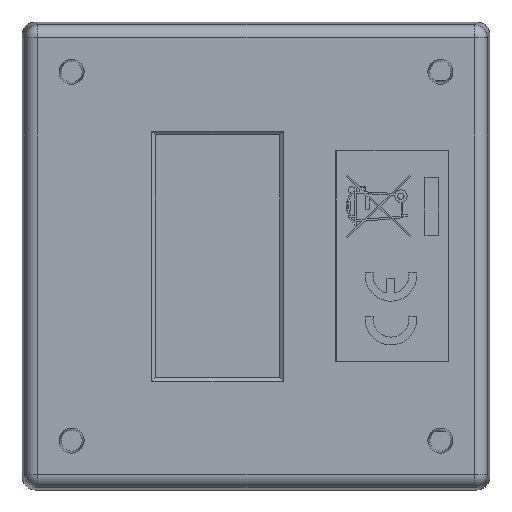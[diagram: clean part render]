
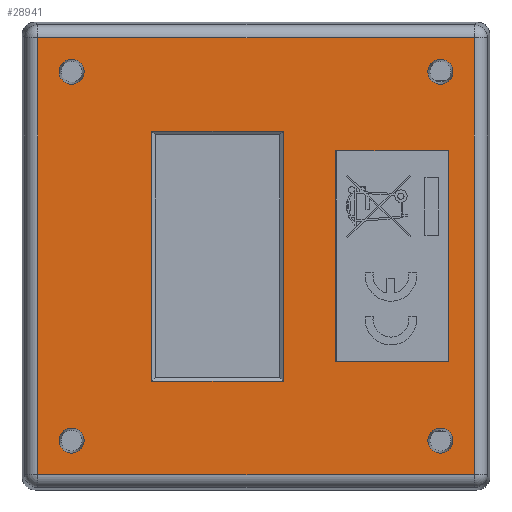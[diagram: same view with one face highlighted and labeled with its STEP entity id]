
A CAD part, front view. The second image highlights one B-rep face of the part: STEP entity #28941.
In plain terms, the highlighted planar face has unit normal (0, -1, 0) as drawn and (0, 0, -1) by its records, which use the part's own axes.
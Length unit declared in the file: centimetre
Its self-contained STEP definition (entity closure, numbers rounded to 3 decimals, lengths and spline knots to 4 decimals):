
#5197=CIRCLE('',#30304,0.1209);
#5198=CIRCLE('',#30305,0.1209);
#5199=CIRCLE('',#30306,0.1209);
#5200=CIRCLE('',#30307,0.1209);
#6588=VERTEX_POINT('',#37783);
#6589=VERTEX_POINT('',#37785);
#6591=VERTEX_POINT('',#37791);
#6593=VERTEX_POINT('',#37797);
#6688=VERTEX_POINT('',#38143);
#6689=VERTEX_POINT('',#38145);
#6691=VERTEX_POINT('',#38151);
#6693=VERTEX_POINT('',#38157);
#6814=VERTEX_POINT('',#39229);
#6815=VERTEX_POINT('',#39231);
#6816=VERTEX_POINT('',#39233);
#6817=VERTEX_POINT('',#39235);
#6818=VERTEX_POINT('',#39237);
#6819=VERTEX_POINT('',#39238);
#6820=VERTEX_POINT('',#39240);
#6821=VERTEX_POINT('',#39242);
#9151=VECTOR('',#32254,1.);
#9154=VECTOR('',#32258,1.);
#9157=VECTOR('',#32262,1.);
#9160=VECTOR('',#32266,1.);
#9290=VECTOR('',#32460,1.);
#9293=VECTOR('',#32464,1.);
#9296=VECTOR('',#32468,1.);
#9299=VECTOR('',#32472,1.);
#9460=VECTOR('',#32705,1.);
#9461=VECTOR('',#32706,1.);
#9462=VECTOR('',#32707,1.);
#9463=VECTOR('',#32708,1.);
#11956=LINE('',#37784,#9151);
#11959=LINE('',#37790,#9154);
#11962=LINE('',#37796,#9157);
#11965=LINE('',#37801,#9160);
#12095=LINE('',#38144,#9290);
#12098=LINE('',#38150,#9293);
#12101=LINE('',#38156,#9296);
#12104=LINE('',#38161,#9299);
#12265=LINE('',#39236,#9460);
#12266=LINE('',#39239,#9461);
#12267=LINE('',#39241,#9462);
#12268=LINE('',#39243,#9463);
#14842=EDGE_CURVE('',#6589,#6588,#11956,.T.);
#14845=EDGE_CURVE('',#6591,#6589,#11959,.T.);
#14848=EDGE_CURVE('',#6593,#6591,#11962,.T.);
#14851=EDGE_CURVE('',#6588,#6593,#11965,.T.);
#14991=EDGE_CURVE('',#6689,#6688,#12095,.F.);
#14994=EDGE_CURVE('',#6691,#6689,#12098,.F.);
#14997=EDGE_CURVE('',#6693,#6691,#12101,.F.);
#15000=EDGE_CURVE('',#6688,#6693,#12104,.F.);
#15181=EDGE_CURVE('',#6814,#6814,#5197,.F.);
#15182=EDGE_CURVE('',#6815,#6815,#5198,.F.);
#15183=EDGE_CURVE('',#6816,#6816,#5199,.F.);
#15184=EDGE_CURVE('',#6817,#6817,#5200,.F.);
#15185=EDGE_CURVE('',#6818,#6819,#12265,.T.);
#15186=EDGE_CURVE('',#6820,#6818,#12266,.T.);
#15187=EDGE_CURVE('',#6821,#6820,#12267,.T.);
#15188=EDGE_CURVE('',#6819,#6821,#12268,.T.);
#19753=ORIENTED_EDGE('',*,*,#14842,.T.);
#19754=ORIENTED_EDGE('',*,*,#14851,.T.);
#19755=ORIENTED_EDGE('',*,*,#14848,.T.);
#19756=ORIENTED_EDGE('',*,*,#14845,.T.);
#19757=ORIENTED_EDGE('',*,*,#15181,.T.);
#19758=ORIENTED_EDGE('',*,*,#15182,.T.);
#19759=ORIENTED_EDGE('',*,*,#15183,.T.);
#19760=ORIENTED_EDGE('',*,*,#15184,.T.);
#19761=ORIENTED_EDGE('',*,*,#15185,.F.);
#19762=ORIENTED_EDGE('',*,*,#15186,.F.);
#19763=ORIENTED_EDGE('',*,*,#15187,.F.);
#19764=ORIENTED_EDGE('',*,*,#15188,.F.);
#19765=ORIENTED_EDGE('',*,*,#14991,.T.);
#19766=ORIENTED_EDGE('',*,*,#15000,.T.);
#19767=ORIENTED_EDGE('',*,*,#14997,.T.);
#19768=ORIENTED_EDGE('',*,*,#14994,.T.);
#25965=EDGE_LOOP('',(#19753,#19754,#19755,#19756));
#25966=EDGE_LOOP('',(#19757));
#25967=EDGE_LOOP('',(#19758));
#25968=EDGE_LOOP('',(#19759));
#25969=EDGE_LOOP('',(#19760));
#25970=EDGE_LOOP('',(#19761,#19762,#19763,#19764));
#25971=EDGE_LOOP('',(#19765,#19766,#19767,#19768));
#27464=FACE_BOUND('',#25965,.T.);
#27465=FACE_BOUND('',#25966,.T.);
#27466=FACE_BOUND('',#25967,.T.);
#27467=FACE_BOUND('',#25968,.T.);
#27468=FACE_BOUND('',#25969,.T.);
#27469=FACE_BOUND('',#25970,.T.);
#27470=FACE_BOUND('',#25971,.T.);
#28941=ADVANCED_FACE('',(#27464,#27465,#27466,#27467,#27468,#27469,#27470),
#48426,.F.);
#30303=AXIS2_PLACEMENT_3D('',#39227,#32696,$);
#30304=AXIS2_PLACEMENT_3D('',#39228,#32697,#32698);
#30305=AXIS2_PLACEMENT_3D('',#39230,#32699,#32700);
#30306=AXIS2_PLACEMENT_3D('',#39232,#32701,#32702);
#30307=AXIS2_PLACEMENT_3D('',#39234,#32703,#32704);
#32254=DIRECTION('',(1.,0.,0.));
#32258=DIRECTION('',(0.,-1.,0.));
#32262=DIRECTION('',(-1.,0.,0.));
#32266=DIRECTION('',(0.,1.,0.));
#32460=DIRECTION('',(-1.,0.,0.));
#32464=DIRECTION('',(0.,1.,0.));
#32468=DIRECTION('',(1.,0.,0.));
#32472=DIRECTION('',(0.,-1.,0.));
#32696=DIRECTION('',(0.,0.,1.));
#32697=DIRECTION('',(0.,0.,-1.));
#32698=DIRECTION('',(-0.121,0.,0.));
#32699=DIRECTION('',(0.,0.,-1.));
#32700=DIRECTION('',(-0.121,0.,0.));
#32701=DIRECTION('',(0.,0.,-1.));
#32702=DIRECTION('',(-0.121,0.,0.));
#32703=DIRECTION('',(0.,0.,-1.));
#32704=DIRECTION('',(-0.121,0.,0.));
#32705=DIRECTION('',(-1.,0.,0.));
#32706=DIRECTION('',(0.,1.,0.));
#32707=DIRECTION('',(1.,0.,0.));
#32708=DIRECTION('',(0.,-1.,0.));
#37783=CARTESIAN_POINT('',(1.2065,-0.2639,-0.0032));
#37784=CARTESIAN_POINT('',(0.6033,-0.2639,-0.0032));
#37785=CARTESIAN_POINT('',(-1.2065,-0.2639,-0.0032));
#37790=CARTESIAN_POINT('',(-1.2065,-0.1319,-0.0032));
#37791=CARTESIAN_POINT('',(-1.2065,1.0061,-0.0032));
#37796=CARTESIAN_POINT('',(-0.6032,1.0061,-0.0032));
#37797=CARTESIAN_POINT('',(1.2065,1.0061,-0.0032));
#37801=CARTESIAN_POINT('',(1.2065,0.5031,-0.0032));
#38143=CARTESIAN_POINT('',(1.0178,-1.8531,-0.0032));
#38144=CARTESIAN_POINT('',(0.,-1.8531,-0.0032));
#38145=CARTESIAN_POINT('',(-1.0178,-1.8531,-0.0032));
#38150=CARTESIAN_POINT('',(-1.0178,-0.3279,-0.0032));
#38151=CARTESIAN_POINT('',(-1.0178,-0.7701,-0.0032));
#38156=CARTESIAN_POINT('',(0.,-0.7701,-0.0032));
#38157=CARTESIAN_POINT('',(1.0178,-0.7701,-0.0032));
#38161=CARTESIAN_POINT('',(1.0178,-0.3279,-0.0032));
#39227=CARTESIAN_POINT('',(0.,0.,-0.0032));
#39228=CARTESIAN_POINT('',(1.778,1.778,-0.0032));
#39229=CARTESIAN_POINT('',(1.8989,1.778,-0.0032));
#39230=CARTESIAN_POINT('',(1.778,-1.778,-0.0032));
#39231=CARTESIAN_POINT('',(1.8989,-1.778,-0.0032));
#39232=CARTESIAN_POINT('',(-1.778,-1.778,-0.0032));
#39233=CARTESIAN_POINT('',(-1.6571,-1.778,-0.0032));
#39234=CARTESIAN_POINT('',(-1.778,1.778,-0.0032));
#39235=CARTESIAN_POINT('',(-1.6571,1.778,-0.0032));
#39236=CARTESIAN_POINT('',(0.,2.1054,-0.0032));
#39237=CARTESIAN_POINT('',(2.1054,2.1054,-0.0032));
#39238=CARTESIAN_POINT('',(-2.1054,2.1054,-0.0032));
#39239=CARTESIAN_POINT('',(2.1054,0.,-0.0032));
#39240=CARTESIAN_POINT('',(2.1054,-2.1054,-0.0032));
#39241=CARTESIAN_POINT('',(0.,-2.1054,-0.0032));
#39242=CARTESIAN_POINT('',(-2.1054,-2.1054,-0.0032));
#39243=CARTESIAN_POINT('',(-2.1054,0.,-0.0032));
#48426=PLANE('',#30303);
